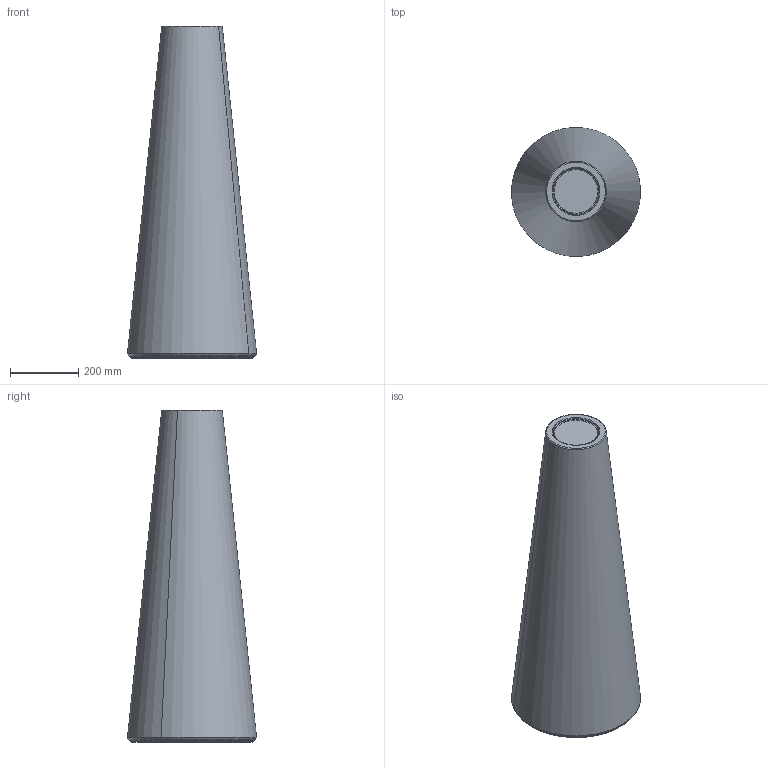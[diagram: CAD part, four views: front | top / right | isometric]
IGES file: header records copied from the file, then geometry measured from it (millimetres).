
Start section: START RECORD GO HERE.
Global section: file name: Fura Table _ base _ design Form Us With Love.igs; native system: DASSAULT SYSTEMES CATIA Version 5-6 Release 2012 - www.3ds.com; preprocessor: V5-6R2012_5.22.4.0.11-16-2012.22.00; author: alberto_brogliato; organization: DOMAIN; date: 20140205.093216; units: millimetre
Bounding box: 377.92 x 377.92 x 971.5 mm (x, y, z)
Surface area: 1010272.7 mm2 (no closed solid volume)
Topology: 0 solids, 0 shells, 56 faces, 244 edges, 244 vertices
Faces by surface type: revolution 36, bspline 12, plane 6, extrusion 2
